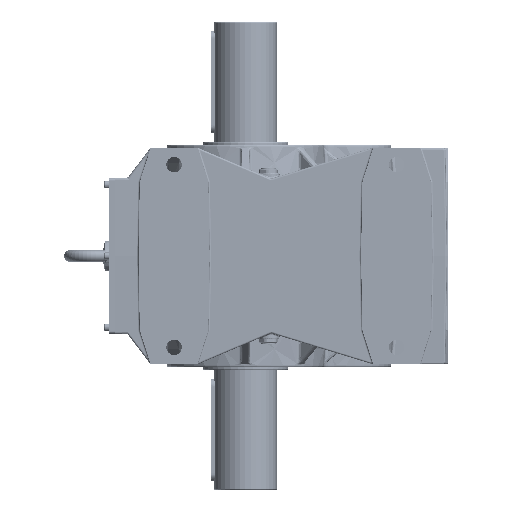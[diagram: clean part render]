
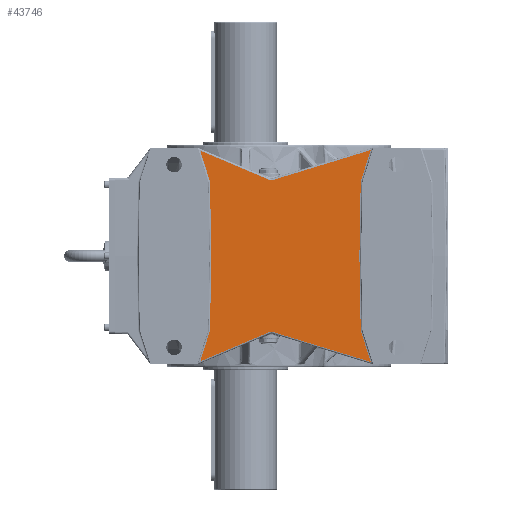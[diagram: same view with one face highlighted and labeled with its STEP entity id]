
A CAD part, left-side view. The second image highlights one B-rep face of the part: STEP entity #43746.
In plain terms, the highlighted planar face has unit normal (-1, 0, 0).
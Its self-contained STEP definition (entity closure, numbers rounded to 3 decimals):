
#35263=CARTESIAN_POINT('',(-225.0,79.172,-184.692));
#35264=VERTEX_POINT('',#35263);
#35272=CARTESIAN_POINT('',(-225.0,62.36,-131.6));
#35273=VERTEX_POINT('',#35272);
#35274=CARTESIAN_POINT('',(-225.0,79.172,-184.692));
#35275=DIRECTION('',(0.0,-0.302,0.953));
#35276=VECTOR('',#35275,55.69);
#35277=LINE('',#35274,#35276);
#35278=EDGE_CURVE('',#35264,#35273,#35277,.T.);
#41409=CARTESIAN_POINT('',(-225.,-42.78,-132.926));
#41410=VERTEX_POINT('',#41409);
#41418=CARTESIAN_POINT('',(-225.,-42.78,-132.926));
#41419=DIRECTION('',(0.,0.921,-0.391));
#41420=VECTOR('',#41419,132.484);
#41421=LINE('',#41418,#41420);
#41422=EDGE_CURVE('',#41410,#35264,#41421,.T.);
#41434=CARTESIAN_POINT('',(-225.,-46.878,-132.711));
#41435=VERTEX_POINT('',#41434);
#41443=CARTESIAN_POINT('',(-225.,-45.124,-138.449));
#41444=DIRECTION('',(-1.0,0.,0.));
#41445=DIRECTION('',(0.,0.052,0.999));
#41446=AXIS2_PLACEMENT_3D('',#41443,#41444,#41445);
#41447=CIRCLE('',#41446,6.);
#41448=EDGE_CURVE('',#41435,#41410,#41447,.T.);
#41468=CARTESIAN_POINT('',(-225.,-219.416,-185.461));
#41469=VERTEX_POINT('',#41468);
#41477=CARTESIAN_POINT('',(-225.,-219.416,-185.461));
#41478=DIRECTION('',(0.,0.956,0.292));
#41479=VECTOR('',#41478,180.421);
#41480=LINE('',#41477,#41479);
#41481=EDGE_CURVE('',#41469,#41435,#41480,.T.);
#42636=CARTESIAN_POINT('',(-225.,-202.36,-131.6));
#42637=VERTEX_POINT('',#42636);
#42645=CARTESIAN_POINT('',(-225.,-202.36,-131.6));
#42646=DIRECTION('',(0.0,-0.302,-0.953));
#42647=VECTOR('',#42646,56.498);
#42648=LINE('',#42645,#42647);
#42649=EDGE_CURVE('',#42637,#41469,#42648,.T.);
#43378=CARTESIAN_POINT('',(-225.0,79.172,184.692));
#43379=VERTEX_POINT('',#43378);
#43387=CARTESIAN_POINT('',(-225.,-42.78,132.926));
#43388=VERTEX_POINT('',#43387);
#43389=CARTESIAN_POINT('',(-225.0,79.172,184.692));
#43390=DIRECTION('',(0.,-0.921,-0.391));
#43391=VECTOR('',#43390,132.484);
#43392=LINE('',#43389,#43391);
#43393=EDGE_CURVE('',#43379,#43388,#43392,.T.);
#43450=CARTESIAN_POINT('',(-225.,-46.878,132.711));
#43451=VERTEX_POINT('',#43450);
#43469=CARTESIAN_POINT('',(-225.,-45.124,138.449));
#43470=DIRECTION('',(-1.0,0.,0.));
#43471=DIRECTION('',(0.,0.052,-0.999));
#43472=AXIS2_PLACEMENT_3D('',#43469,#43470,#43471);
#43473=CIRCLE('',#43472,6.);
#43474=EDGE_CURVE('',#43388,#43451,#43473,.T.);
#43484=CARTESIAN_POINT('',(-225.,-219.416,185.461));
#43485=VERTEX_POINT('',#43484);
#43502=CARTESIAN_POINT('',(-225.,-46.878,132.711));
#43503=DIRECTION('',(0.,-0.956,0.292));
#43504=VECTOR('',#43503,180.421);
#43505=LINE('',#43502,#43504);
#43506=EDGE_CURVE('',#43451,#43485,#43505,.T.);
#43651=CARTESIAN_POINT('',(-225.,-350.0,0.0));
#43652=DIRECTION('',(-1.0,0.0,0.0));
#43653=DIRECTION('',(0.0,0.0,1.0));
#43654=AXIS2_PLACEMENT_3D('',#43651,#43652,#43653);
#43655=PLANE('',#43654);
#43656=ORIENTED_EDGE('',*,*,#41481,.F.);
#43657=ORIENTED_EDGE('',*,*,#42649,.F.);
#43658=CARTESIAN_POINT('',(-225.,-201.988,-129.324));
#43659=VERTEX_POINT('',#43658);
#43660=CARTESIAN_POINT('',(-225.,-209.987,-129.185));
#43661=DIRECTION('',(-1.0,0.,0.));
#43662=DIRECTION('',(0.,0.987,-0.161));
#43663=AXIS2_PLACEMENT_3D('',#43660,#43661,#43662);
#43664=CIRCLE('',#43663,8.);
#43665=EDGE_CURVE('',#43659,#42637,#43664,.T.);
#43666=ORIENTED_EDGE('',*,*,#43665,.F.);
#43667=CARTESIAN_POINT('',(-225.,-199.73,0.));
#43668=VERTEX_POINT('',#43667);
#43669=CARTESIAN_POINT('',(-225.,-199.73,0.));
#43670=DIRECTION('',(0.0,-0.017,-1.));
#43671=VECTOR('',#43670,129.344);
#43672=LINE('',#43669,#43671);
#43673=EDGE_CURVE('',#43668,#43659,#43672,.T.);
#43674=ORIENTED_EDGE('',*,*,#43673,.F.);
#43675=CARTESIAN_POINT('',(-225.,-201.988,129.324));
#43676=VERTEX_POINT('',#43675);
#43677=CARTESIAN_POINT('',(-225.,-201.988,129.324));
#43678=DIRECTION('',(0.0,0.017,-1.));
#43679=VECTOR('',#43678,129.344);
#43680=LINE('',#43677,#43679);
#43681=EDGE_CURVE('',#43676,#43668,#43680,.T.);
#43682=ORIENTED_EDGE('',*,*,#43681,.F.);
#43683=CARTESIAN_POINT('',(-225.,-202.36,131.6));
#43684=VERTEX_POINT('',#43683);
#43685=CARTESIAN_POINT('',(-225.,-209.987,129.185));
#43686=DIRECTION('',(-1.0,0.,0.));
#43687=DIRECTION('',(0.,0.987,0.161));
#43688=AXIS2_PLACEMENT_3D('',#43685,#43686,#43687);
#43689=CIRCLE('',#43688,8.);
#43690=EDGE_CURVE('',#43684,#43676,#43689,.T.);
#43691=ORIENTED_EDGE('',*,*,#43690,.F.);
#43692=CARTESIAN_POINT('',(-225.,-219.416,185.461));
#43693=DIRECTION('',(0.0,0.302,-0.953));
#43694=VECTOR('',#43693,56.498);
#43695=LINE('',#43692,#43694);
#43696=EDGE_CURVE('',#43485,#43684,#43695,.T.);
#43697=ORIENTED_EDGE('',*,*,#43696,.F.);
#43698=ORIENTED_EDGE('',*,*,#43506,.F.);
#43699=ORIENTED_EDGE('',*,*,#43474,.F.);
#43700=ORIENTED_EDGE('',*,*,#43393,.F.);
#43701=CARTESIAN_POINT('',(-225.0,62.36,131.6));
#43702=VERTEX_POINT('',#43701);
#43703=CARTESIAN_POINT('',(-225.0,62.36,131.6));
#43704=DIRECTION('',(0.0,0.302,0.953));
#43705=VECTOR('',#43704,55.69);
#43706=LINE('',#43703,#43705);
#43707=EDGE_CURVE('',#43702,#43379,#43706,.T.);
#43708=ORIENTED_EDGE('',*,*,#43707,.F.);
#43709=CARTESIAN_POINT('',(-225.0,61.988,129.324));
#43710=VERTEX_POINT('',#43709);
#43711=CARTESIAN_POINT('',(-225.0,69.987,129.185));
#43712=DIRECTION('',(-1.0,0.,0.));
#43713=DIRECTION('',(0.,-0.987,0.161));
#43714=AXIS2_PLACEMENT_3D('',#43711,#43712,#43713);
#43715=CIRCLE('',#43714,8.0);
#43716=EDGE_CURVE('',#43710,#43702,#43715,.T.);
#43717=ORIENTED_EDGE('',*,*,#43716,.F.);
#43718=CARTESIAN_POINT('',(-225.0,59.73,0.));
#43719=VERTEX_POINT('',#43718);
#43720=CARTESIAN_POINT('',(-225.0,59.73,0.));
#43721=DIRECTION('',(0.0,0.017,1.));
#43722=VECTOR('',#43721,129.344);
#43723=LINE('',#43720,#43722);
#43724=EDGE_CURVE('',#43719,#43710,#43723,.T.);
#43725=ORIENTED_EDGE('',*,*,#43724,.F.);
#43726=CARTESIAN_POINT('',(-225.0,61.988,-129.324));
#43727=VERTEX_POINT('',#43726);
#43728=CARTESIAN_POINT('',(-225.0,61.988,-129.324));
#43729=DIRECTION('',(0.0,-0.017,1.));
#43730=VECTOR('',#43729,129.344);
#43731=LINE('',#43728,#43730);
#43732=EDGE_CURVE('',#43727,#43719,#43731,.T.);
#43733=ORIENTED_EDGE('',*,*,#43732,.F.);
#43734=CARTESIAN_POINT('',(-225.0,69.987,-129.185));
#43735=DIRECTION('',(-1.0,0.,0.));
#43736=DIRECTION('',(0.,-0.987,-0.161));
#43737=AXIS2_PLACEMENT_3D('',#43734,#43735,#43736);
#43738=CIRCLE('',#43737,8.0);
#43739=EDGE_CURVE('',#35273,#43727,#43738,.T.);
#43740=ORIENTED_EDGE('',*,*,#43739,.F.);
#43741=ORIENTED_EDGE('',*,*,#35278,.F.);
#43742=ORIENTED_EDGE('',*,*,#41422,.F.);
#43743=ORIENTED_EDGE('',*,*,#41448,.F.);
#43744=EDGE_LOOP('',(#43656,#43657,#43666,#43674,#43682,#43691,#43697,#43698,#43699,#43700,#43708,#43717,#43725,#43733,#43740,#43741,#43742,#43743));
#43745=FACE_OUTER_BOUND('',#43744,.T.);
#43746=ADVANCED_FACE('',(#43745),#43655,.T.);
